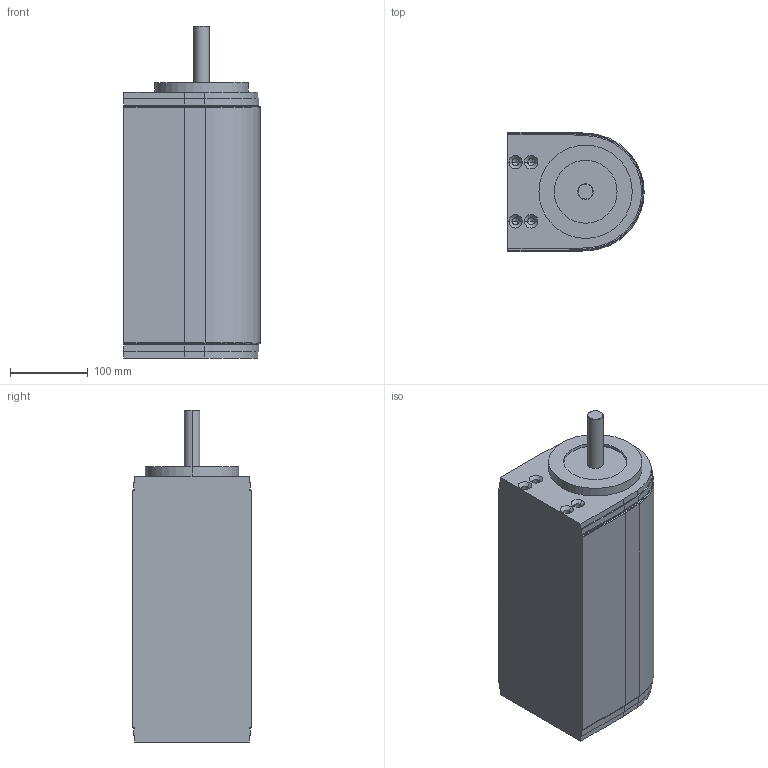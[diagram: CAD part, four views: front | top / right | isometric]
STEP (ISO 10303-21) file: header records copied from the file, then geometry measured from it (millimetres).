
FILE_DESCRIPTION (( 'STEP AP214' ), '1' );
FILE_NAME ('F2 1200 MDD20 GP.step', '2017-04-05T06:47:25', ( '' ), ( '' ), 'SwSTEP 2.0', 'SolidWorks 2015', '' );
FILE_SCHEMA (( 'AUTOMOTIVE_DESIGN' ));
Length unit declared in the file: millimetre
Products named in the file (1): F2 1200 MDD20 GP
Bounding box: 175.3 x 153.4 x 427 mm (x, y, z)
Volume: 8373213.8 mm3; surface area: 263000.1 mm2
Topology: 1 solids, 1 shells, 113 faces, 282 edges, 166 vertices
Faces by surface type: plane 40, cylinder 37, cone 34, torus 2
Entity records: 3820 total; most frequent: DIRECTION 576, CARTESIAN_POINT 558, ORIENTED_EDGE 532, EDGE_CURVE 266, AXIS2_PLACEMENT_3D 200, VECTOR 176, LINE 176, VERTEX_POINT 166
